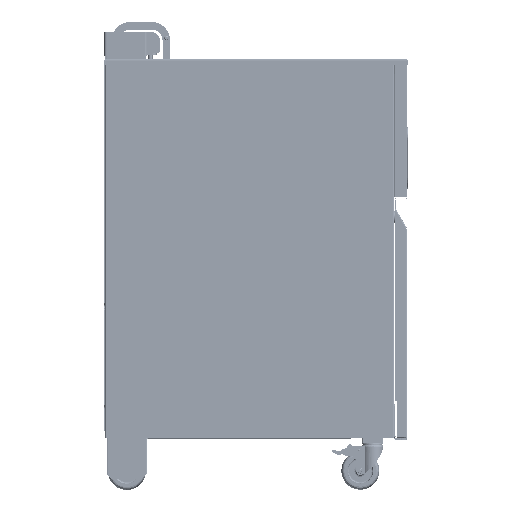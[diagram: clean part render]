
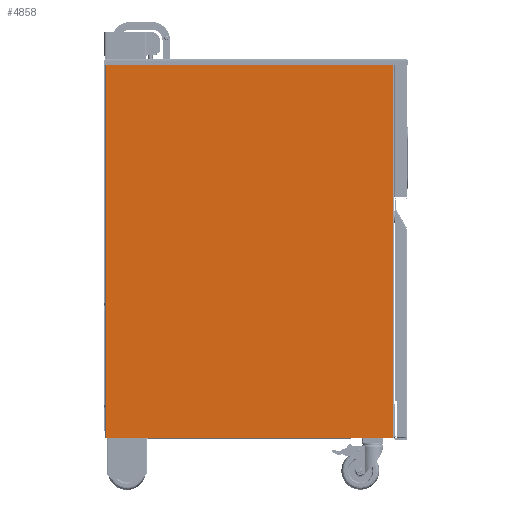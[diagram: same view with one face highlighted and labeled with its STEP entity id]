
A CAD part, left-side view. The second image highlights one B-rep face of the part: STEP entity #4858.
In plain terms, the highlighted planar face has unit normal (-1, 0, 0).
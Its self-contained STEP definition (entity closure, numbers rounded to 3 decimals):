
#4858=ADVANCED_FACE('',(#10982),#104232,.T.);
#10982=FACE_OUTER_BOUND('',#17279,.T.);
#17279=EDGE_LOOP('',(#30009,#30010,#30011,#30012,#30013,#30014,#30015,#30016,
#30017,#30018,#30019,#30020,#30021,#30022,#30023,#30024));
#30009=ORIENTED_EDGE('',*,*,#58245,.T.);
#30010=ORIENTED_EDGE('',*,*,#58246,.T.);
#30011=ORIENTED_EDGE('',*,*,#58247,.T.);
#30012=ORIENTED_EDGE('',*,*,#58248,.T.);
#30013=ORIENTED_EDGE('',*,*,#58249,.T.);
#30014=ORIENTED_EDGE('',*,*,#58250,.T.);
#30015=ORIENTED_EDGE('',*,*,#58251,.T.);
#30016=ORIENTED_EDGE('',*,*,#58252,.T.);
#30017=ORIENTED_EDGE('',*,*,#58253,.T.);
#30018=ORIENTED_EDGE('',*,*,#58254,.T.);
#30019=ORIENTED_EDGE('',*,*,#58255,.T.);
#30020=ORIENTED_EDGE('',*,*,#58256,.T.);
#30021=ORIENTED_EDGE('',*,*,#58257,.T.);
#30022=ORIENTED_EDGE('',*,*,#58258,.T.);
#30023=ORIENTED_EDGE('',*,*,#58259,.T.);
#30024=ORIENTED_EDGE('',*,*,#58260,.T.);
#58245=EDGE_CURVE('',#93772,#93773,#84197,.T.);
#58246=EDGE_CURVE('',#93773,#93774,#84198,.T.);
#58247=EDGE_CURVE('',#93774,#93775,#84199,.T.);
#58248=EDGE_CURVE('',#93775,#93776,#84200,.T.);
#58249=EDGE_CURVE('',#93776,#93777,#84201,.T.);
#58250=EDGE_CURVE('',#93777,#93778,#84202,.T.);
#58251=EDGE_CURVE('',#93778,#93779,#84203,.T.);
#58252=EDGE_CURVE('',#93779,#93780,#84204,.T.);
#58253=EDGE_CURVE('',#93780,#93781,#84205,.T.);
#58254=EDGE_CURVE('',#93781,#93782,#84206,.T.);
#58255=EDGE_CURVE('',#93782,#93783,#84207,.T.);
#58256=EDGE_CURVE('',#93783,#93784,#84208,.T.);
#58257=EDGE_CURVE('',#93784,#93785,#84209,.T.);
#58258=EDGE_CURVE('',#93785,#93786,#84210,.T.);
#58259=EDGE_CURVE('',#93786,#93787,#84211,.T.);
#58260=EDGE_CURVE('',#93787,#93772,#84212,.T.);
#84197=B_SPLINE_CURVE_WITH_KNOTS('',1,(#186399,#186400),.UNSPECIFIED.,.F.,
 .F.,(2,2),(0.,0.5),.UNSPECIFIED.);
#84198=B_SPLINE_CURVE_WITH_KNOTS('',1,(#186401,#186402),.UNSPECIFIED.,.F.,
 .F.,(2,2),(0.,0.5),.UNSPECIFIED.);
#84199=B_SPLINE_CURVE_WITH_KNOTS('',1,(#186403,#186404),.UNSPECIFIED.,.F.,
 .F.,(2,2),(0.,402.),.UNSPECIFIED.);
#84200=B_SPLINE_CURVE_WITH_KNOTS('',1,(#186405,#186406),.UNSPECIFIED.,.F.,
 .F.,(2,2),(0.,0.5),.UNSPECIFIED.);
#84201=B_SPLINE_CURVE_WITH_KNOTS('',1,(#186407,#186408),.UNSPECIFIED.,.F.,
 .F.,(2,2),(0.,0.5),.UNSPECIFIED.);
#84202=B_SPLINE_CURVE_WITH_KNOTS('',1,(#186409,#186410),.UNSPECIFIED.,.F.,
 .F.,(2,2),(0.,2.5),.UNSPECIFIED.);
#84203=B_SPLINE_CURVE_WITH_KNOTS('',1,(#186411,#186412),.UNSPECIFIED.,.F.,
 .F.,(2,2),(0.,81.335),.UNSPECIFIED.);
#84204=B_SPLINE_CURVE_WITH_KNOTS('',1,(#186413,#186414),.UNSPECIFIED.,.F.,
 .F.,(2,2),(0.,744.8),.UNSPECIFIED.);
#84205=B_SPLINE_CURVE_WITH_KNOTS('',1,(#186415,#186416),.UNSPECIFIED.,.F.,
 .F.,(2,2),(0.,81.835),.UNSPECIFIED.);
#84206=B_SPLINE_CURVE_WITH_KNOTS('',1,(#186417,#186418),.UNSPECIFIED.,.F.,
 .F.,(2,2),(0.,0.2),.UNSPECIFIED.);
#84207=B_SPLINE_CURVE_WITH_KNOTS('',1,(#186419,#186420),.UNSPECIFIED.,.F.,
 .F.,(2,2),(0.,402.),.UNSPECIFIED.);
#84208=B_SPLINE_CURVE_WITH_KNOTS('',1,(#186421,#186422),.UNSPECIFIED.,.F.,
 .F.,(2,2),(0.,0.2),.UNSPECIFIED.);
#84209=B_SPLINE_CURVE_WITH_KNOTS('',1,(#186423,#186424),.UNSPECIFIED.,.F.,
 .F.,(2,2),(0.,81.835),.UNSPECIFIED.);
#84210=B_SPLINE_CURVE_WITH_KNOTS('',1,(#186425,#186426),.UNSPECIFIED.,.F.,
 .F.,(2,2),(0.,744.8),.UNSPECIFIED.);
#84211=B_SPLINE_CURVE_WITH_KNOTS('',1,(#186427,#186428),.UNSPECIFIED.,.F.,
 .F.,(2,2),(0.,81.335),.UNSPECIFIED.);
#84212=B_SPLINE_CURVE_WITH_KNOTS('',1,(#186429,#186430),.UNSPECIFIED.,.F.,
 .F.,(2,2),(0.,2.5),.UNSPECIFIED.);
#93772=VERTEX_POINT('',#186123);
#93773=VERTEX_POINT('',#186124);
#93774=VERTEX_POINT('',#186125);
#93775=VERTEX_POINT('',#186126);
#93776=VERTEX_POINT('',#186127);
#93777=VERTEX_POINT('',#186128);
#93778=VERTEX_POINT('',#186129);
#93779=VERTEX_POINT('',#186130);
#93780=VERTEX_POINT('',#186131);
#93781=VERTEX_POINT('',#186132);
#93782=VERTEX_POINT('',#186133);
#93783=VERTEX_POINT('',#186134);
#93784=VERTEX_POINT('',#186135);
#93785=VERTEX_POINT('',#186136);
#93786=VERTEX_POINT('',#186137);
#93787=VERTEX_POINT('',#186138);
#104232=PLANE('',#108646);
#108646=AXIS2_PLACEMENT_3D('',#185956,#120445,$);
#120445=DIRECTION('',(-1.,0.,0.));
#185956=CARTESIAN_POINT('',(1803.,339.414,27.988));
#186123=CARTESIAN_POINT('',(1803.,-201.5,845.));
#186124=CARTESIAN_POINT('',(1803.,-201.,845.));
#186125=CARTESIAN_POINT('',(1803.,-201.,845.5));
#186126=CARTESIAN_POINT('',(1803.,201.,845.5));
#186127=CARTESIAN_POINT('',(1803.,201.,845.));
#186128=CARTESIAN_POINT('',(1803.,201.5,845.));
#186129=CARTESIAN_POINT('',(1803.,201.5,847.5));
#186130=CARTESIAN_POINT('',(1803.,282.835,847.5));
#186131=CARTESIAN_POINT('',(1803.,282.835,102.7));
#186132=CARTESIAN_POINT('',(1803.,201.,102.7));
#186133=CARTESIAN_POINT('',(1803.,201.,102.5));
#186134=CARTESIAN_POINT('',(1803.,-201.,102.5));
#186135=CARTESIAN_POINT('',(1803.,-201.,102.7));
#186136=CARTESIAN_POINT('',(1803.,-282.835,102.7));
#186137=CARTESIAN_POINT('',(1803.,-282.835,847.5));
#186138=CARTESIAN_POINT('',(1803.,-201.5,847.5));
#186399=CARTESIAN_POINT('',(1803.,-201.5,845.));
#186400=CARTESIAN_POINT('',(1803.,-201.,845.));
#186401=CARTESIAN_POINT('',(1803.,-201.,845.));
#186402=CARTESIAN_POINT('',(1803.,-201.,845.5));
#186403=CARTESIAN_POINT('',(1803.,-201.,845.5));
#186404=CARTESIAN_POINT('',(1803.,201.,845.5));
#186405=CARTESIAN_POINT('',(1803.,201.,845.5));
#186406=CARTESIAN_POINT('',(1803.,201.,845.));
#186407=CARTESIAN_POINT('',(1803.,201.,845.));
#186408=CARTESIAN_POINT('',(1803.,201.5,845.));
#186409=CARTESIAN_POINT('',(1803.,201.5,845.));
#186410=CARTESIAN_POINT('',(1803.,201.5,847.5));
#186411=CARTESIAN_POINT('',(1803.,201.5,847.5));
#186412=CARTESIAN_POINT('',(1803.,282.835,847.5));
#186413=CARTESIAN_POINT('',(1803.,282.835,847.5));
#186414=CARTESIAN_POINT('',(1803.,282.835,102.7));
#186415=CARTESIAN_POINT('',(1803.,282.835,102.7));
#186416=CARTESIAN_POINT('',(1803.,201.,102.7));
#186417=CARTESIAN_POINT('',(1803.,201.,102.7));
#186418=CARTESIAN_POINT('',(1803.,201.,102.5));
#186419=CARTESIAN_POINT('',(1803.,201.,102.5));
#186420=CARTESIAN_POINT('',(1803.,-201.,102.5));
#186421=CARTESIAN_POINT('',(1803.,-201.,102.5));
#186422=CARTESIAN_POINT('',(1803.,-201.,102.7));
#186423=CARTESIAN_POINT('',(1803.,-201.,102.7));
#186424=CARTESIAN_POINT('',(1803.,-282.835,102.7));
#186425=CARTESIAN_POINT('',(1803.,-282.835,102.7));
#186426=CARTESIAN_POINT('',(1803.,-282.835,847.5));
#186427=CARTESIAN_POINT('',(1803.,-282.835,847.5));
#186428=CARTESIAN_POINT('',(1803.,-201.5,847.5));
#186429=CARTESIAN_POINT('',(1803.,-201.5,847.5));
#186430=CARTESIAN_POINT('',(1803.,-201.5,845.));
